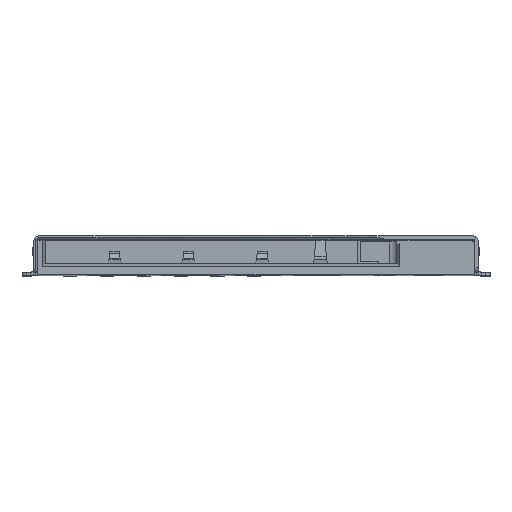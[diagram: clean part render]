
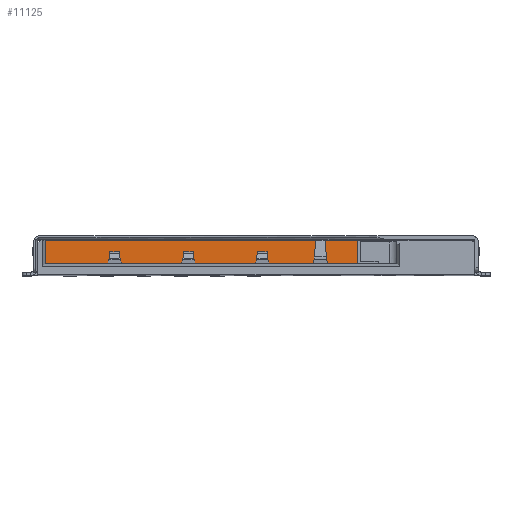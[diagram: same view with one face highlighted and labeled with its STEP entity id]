
A CAD part, top view. The second image highlights one B-rep face of the part: STEP entity #11125.
In plain terms, the highlighted planar face has unit normal (0, 0, 1).
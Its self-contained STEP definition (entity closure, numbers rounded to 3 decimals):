
#4998=CARTESIAN_POINT('Vertex',(-11.437,2.336,-6.5)) ;
#5001=CARTESIAN_POINT('Line Origine',(-6.067,2.336,-6.5)) ;
#5005=CARTESIAN_POINT('Vertex',(-0.697,2.336,-6.5)) ;
#7901=CARTESIAN_POINT('Vertex',(-0.697,1.526,-6.5)) ;
#7904=CARTESIAN_POINT('Line Origine',(-6.067,1.526,-6.5)) ;
#7908=CARTESIAN_POINT('Vertex',(-11.437,1.526,-6.5)) ;
#8936=CARTESIAN_POINT('Line Origine',(-0.697,1.931,-6.5)) ;
#11102=CARTESIAN_POINT('Line Origine',(-11.437,1.931,-6.5)) ;
#11114=CARTESIAN_POINT('Axis2P3D Location',(-6.067,1.931,-6.5)) ;
#5002=DIRECTION('Vector Direction',(1.,0.,0.)) ;
#7905=DIRECTION('Vector Direction',(-1.,0.,0.)) ;
#8937=DIRECTION('Vector Direction',(0.,1.,0.)) ;
#11103=DIRECTION('Vector Direction',(0.,1.,0.)) ;
#11115=DIRECTION('Axis2P3D Direction',(0.,0.,1.)) ;
#11116=DIRECTION('Axis2P3D XDirection',(-1.,0.,0.)) ;
#11117=AXIS2_PLACEMENT_3D('Plane Axis2P3D',#11114,#11115,#11116) ;
#11120=ORIENTED_EDGE('',*,*,#5007,.F.) ;
#11121=ORIENTED_EDGE('',*,*,#11106,.F.) ;
#11122=ORIENTED_EDGE('',*,*,#7910,.F.) ;
#11123=ORIENTED_EDGE('',*,*,#8940,.T.) ;
#5003=VECTOR('Line Direction',#5002,1.) ;
#7906=VECTOR('Line Direction',#7905,1.) ;
#8938=VECTOR('Line Direction',#8937,1.) ;
#11104=VECTOR('Line Direction',#11103,1.) ;
#11125=ADVANCED_FACE('',(#11124),#11118,.T.) ;
#5007=EDGE_CURVE('',#4999,#5006,#5004,.T.) ;
#7910=EDGE_CURVE('',#7902,#7909,#7907,.T.) ;
#8940=EDGE_CURVE('',#7902,#5006,#8939,.T.) ;
#11106=EDGE_CURVE('',#7909,#4999,#11105,.T.) ;
#11119=EDGE_LOOP('',(#11120,#11121,#11122,#11123)) ;
#11124=FACE_OUTER_BOUND('',#11119,.T.) ;
#5004=LINE('Line',#5001,#5003) ;
#7907=LINE('Line',#7904,#7906) ;
#8939=LINE('Line',#8936,#8938) ;
#11105=LINE('Line',#11102,#11104) ;
#11118=PLANE('Plane',#11117) ;
#4999=VERTEX_POINT('',#4998) ;
#5006=VERTEX_POINT('',#5005) ;
#7902=VERTEX_POINT('',#7901) ;
#7909=VERTEX_POINT('',#7908) ;
